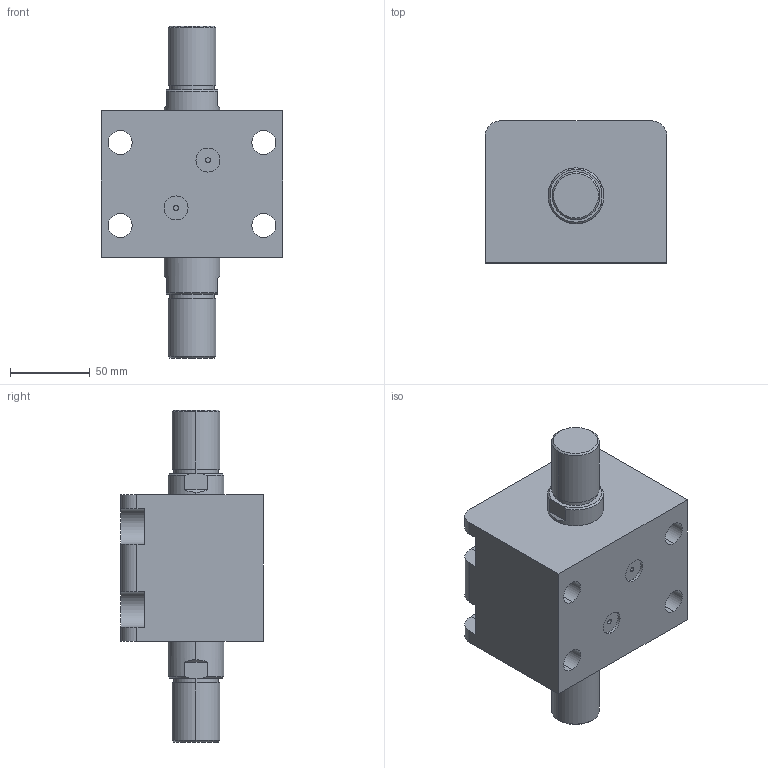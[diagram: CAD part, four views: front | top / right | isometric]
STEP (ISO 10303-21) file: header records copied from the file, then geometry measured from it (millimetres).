
FILE_DESCRIPTION (( 'STEP AP203' ), '1' );
FILE_NAME ('HTB-LWM63-10W.STEP', '2020-12-25T03:35:43', ( '微软用户' ), ( '微软中国' ), 'SwSTEP 2.0', 'SolidWorks 2012', '' );
FILE_SCHEMA (( 'CONFIG_CONTROL_DESIGN' ));
Length unit declared in the file: millimetre
Products named in the file (3): HTB-LWM63-10掛极; HTB-LWM63-10W活塞杆; HTB-LWM63-10W
Assembly tree (2 placements, depth 2):
  HTB-LWM63-10W
    HTB-LWM63-10掛极
    HTB-LWM63-10W活塞杆
Bounding box: 114 x 89 x 208 mm (x, y, z)
Volume: 919241.6 mm3; surface area: 116605.7 mm2
Topology: 2 solids, 2 shells, 102 faces, 246 edges, 160 vertices
Faces by surface type: cylinder 46, plane 40, torus 8, cone 8
Entity records: 3351 total; most frequent: CARTESIAN_POINT 569, DIRECTION 560, ORIENTED_EDGE 492, EDGE_CURVE 246, AXIS2_PLACEMENT_3D 223, VERTEX_POINT 160, EDGE_LOOP 124, CIRCLE 116
